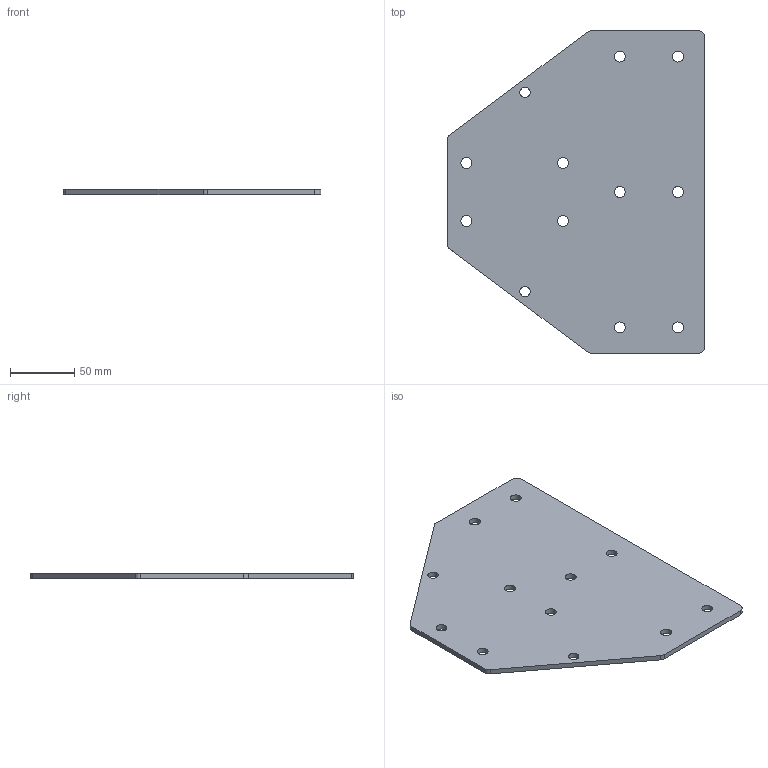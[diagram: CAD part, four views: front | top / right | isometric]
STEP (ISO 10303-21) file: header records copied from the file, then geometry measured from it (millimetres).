
FILE_DESCRIPTION(('STEP AP203'), '1');
FILE_NAME('À00804.39090_ Ò-ñîåäèíèòåëü', '', ('UNSPECIFIED'), ('UNSPECIFIED'), 'C3D Converter', 'C3D Toolkit', '');
FILE_SCHEMA(('CONFIG_CONTROL_DESIGN'));
Length unit declared in the file: millimetre
Products named in the file (1): А00804.39090
Bounding box: 200 x 250 x 4 mm (x, y, z)
Volume: 160975.6 mm3; surface area: 84896 mm2
Topology: 1 solids, 1 shells, 26 faces, 72 edges, 48 vertices
Faces by surface type: cylinder 18, plane 8
Full cylindrical faces by diameter (mm): 8 x2, 8.5 x10
Entity records: 1083 total; most frequent: DIRECTION 150, CARTESIAN_POINT 135, ORIENTED_EDGE 120, AXIS2_PLACEMENT_3D 63, EDGE_LOOP 62, EDGE_CURVE 60, VERTEX_POINT 48, FACE_BOUND 38
